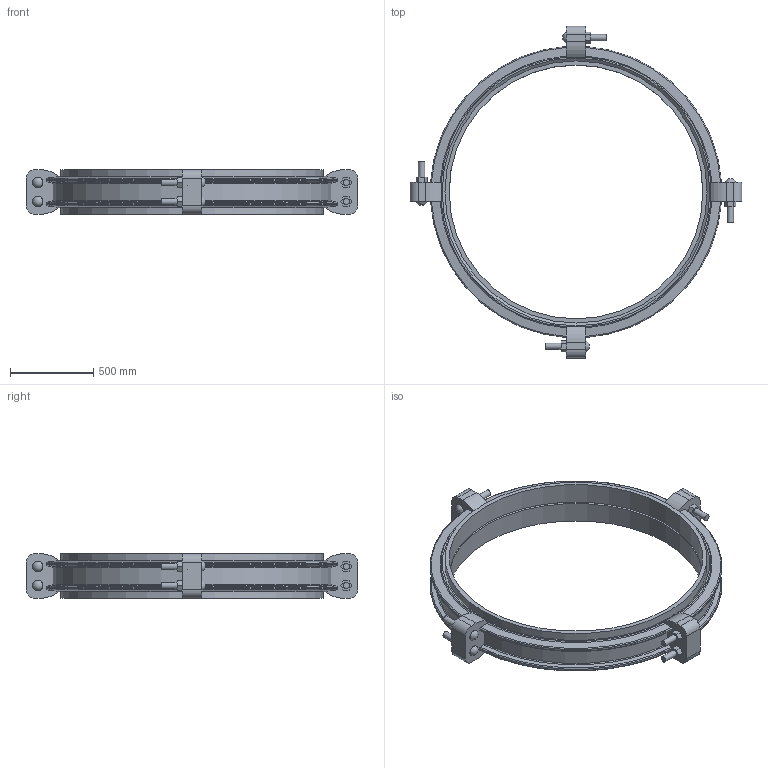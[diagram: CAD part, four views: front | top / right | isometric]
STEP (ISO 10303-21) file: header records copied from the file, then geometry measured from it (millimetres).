
FILE_DESCRIPTION(/* description */ ('VIC COUPLING FLEX STYLE W77 AGS VIC-RING ','CAx-IF Rec.Pracs.---Representation and Presentation of Product Manufacturing Information (PMI)---4.0---2014-10-13'),/* implementation_level */ '2;1');
FILE_NAME(/* name */ 'C:\Users\Vjadhav\AppData\Roaming\Autodesk\ApplicationPlugins\Victaulic.Temp\A52\Victaulic_Vic-Ring_Coupling Flexible_Style W77 (AGR)_62 (1550).stp',/* time_stamp */ '2021-12-20T11:07:03+06:00',/* author */ ('Vjadhav'),/* organization */ ('Victaulic'),/* preprocessor_version */ 'ST-DEVELOPER v17.2',/* originating_system */ 'Autodesk Inventor 2019',/* authorisation */ '');
FILE_SCHEMA (('AP242_MANAGED_MODEL_BASED_3D_ENGINEERING_MIM_LF { 1 0 10303 442 1 1 4 }'));
Length unit declared in the file: inch
Products named in the file (3): W77 VR-62.0; W77-VR-62.0; W77 VR-62.0_1
Assembly tree (3 placements, depth 2):
  W77 VR-62.0
    W77-VR-62.0
    W77 VR-62.0_1  x2
Bounding box: 1993.9 x 1993.9 x 266.7 mm (x, y, z)
Volume: 107865899.6 mm3; surface area: 6936018.1 mm2
Topology: 3 solids, 11 shells, 279 faces, 745 edges, 512 vertices
Faces by surface type: plane 138, cylinder 83, torus 32, cone 18, sphere 8
Full cylindrical faces by diameter (mm): 38.1 x16, 63.5 x8, 1524 x2, 1555.75 x1, 1574.8 x4
Entity records: 10061 total; most frequent: CARTESIAN_POINT 2672, ORIENTED_EDGE 1470, DIRECTION 1457, EDGE_CURVE 735, AXIS2_PLACEMENT_3D 537, VERTEX_POINT 504, LINE 383, VECTOR 383
